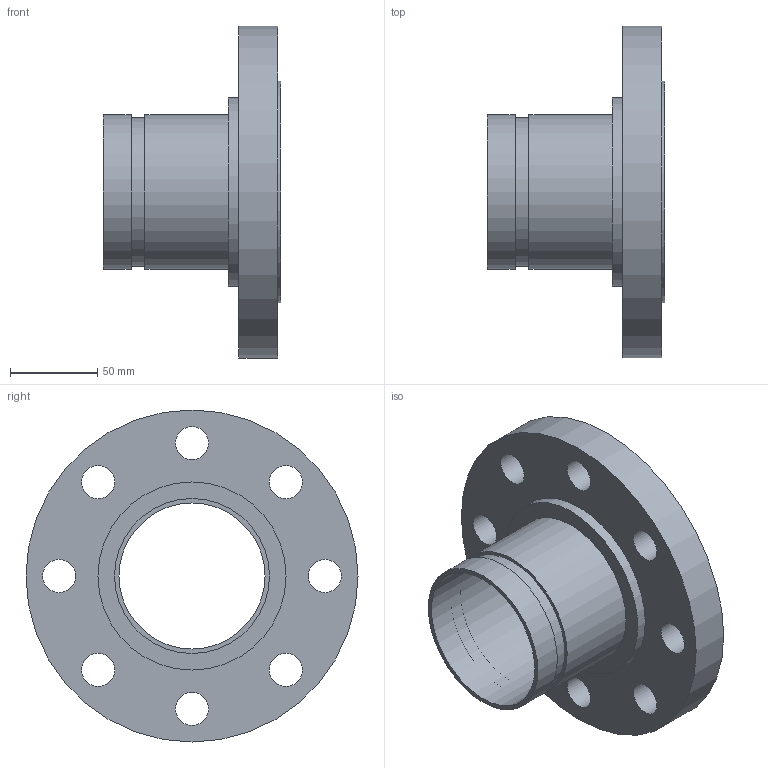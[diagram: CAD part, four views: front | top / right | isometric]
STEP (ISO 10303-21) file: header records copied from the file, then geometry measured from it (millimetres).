
FILE_DESCRIPTION(/* description */ ('VIC No 445R FLANGE ADAPTER NIPPE (ANSI)','CAx-IF Rec.Pracs.---Representation and Presentation of Product Manufacturing Information (PMI)---4.0---2014-10-13'),/* implementation_level */ '2;1');
FILE_NAME(/* name */ 'C:\Users\kkamble\AppData\Roaming\Autodesk\ApplicationPlugins\Back Up\Victaulic_SS-OGS_Flanged Adapter Nipple_CL 150 RF_Style 445R (OGSxFLG)\Victaulic_SS-OGS_Flanged Adapter Nipple_CL 150 RF_Style 445R (OGSxFLG)_3 (80).stp',/* time_stamp */ '2020-08-27T09:31:05+05:00',/* author */ ('jbrannon'),/* organization */ ('Victaulic'),/* preprocessor_version */ 'ST-DEVELOPER v17.2',/* originating_system */ 'Autodesk Inventor 2019',/* authorisation */ '');
FILE_SCHEMA (('AP242_MANAGED_MODEL_BASED_3D_ENGINEERING_MIM_LF { 1 0 10303 442 1 1 4 }'));
Length unit declared in the file: inch
Products named in the file (1): 445R-03.0
Bounding box: 101.6 x 190.5 x 190.5 mm (x, y, z)
Volume: 541298.1 mm3; surface area: 115911.9 mm2
Topology: 1 solids, 1 shells, 22 faces, 59 edges, 44 vertices
Faces by surface type: cylinder 15, plane 7
Full cylindrical faces by diameter (mm): 19.05 x8, 83.82 x1, 84.938 x1, 88.9 x2, 107.95 x1, 127 x1, 190.5 x1
Entity records: 929 total; most frequent: DIRECTION 175, CARTESIAN_POINT 143, ORIENTED_EDGE 118, AXIS2_PLACEMENT_3D 80, EDGE_CURVE 59, EDGE_LOOP 45, CIRCLE 44, VERTEX_POINT 44
